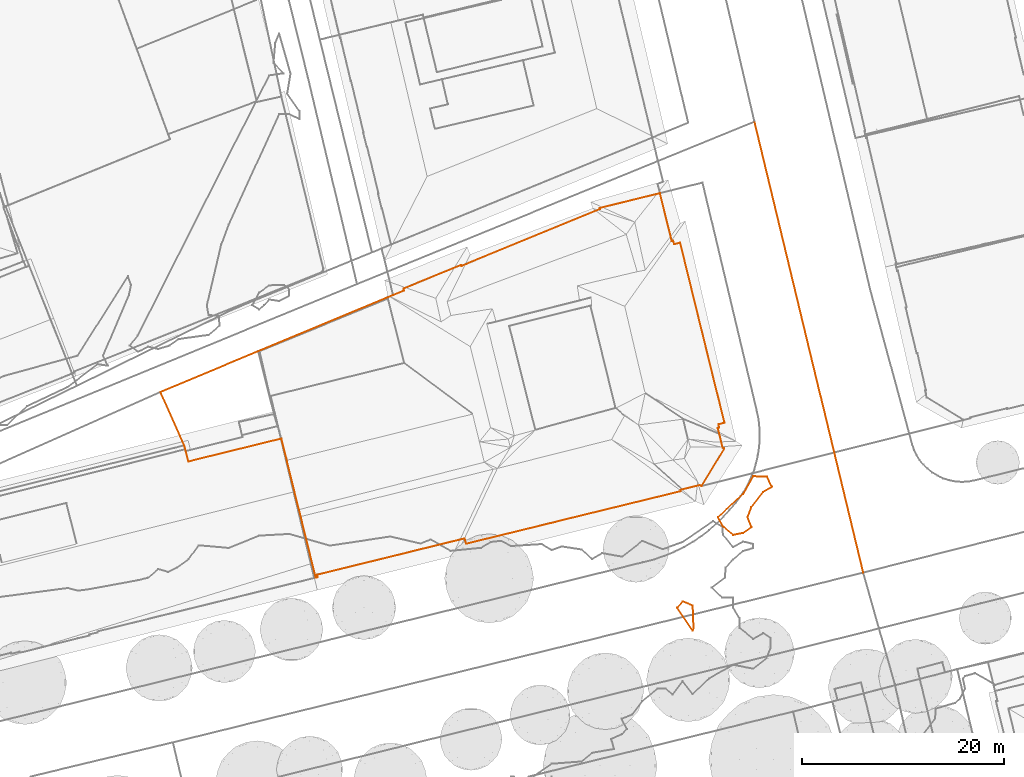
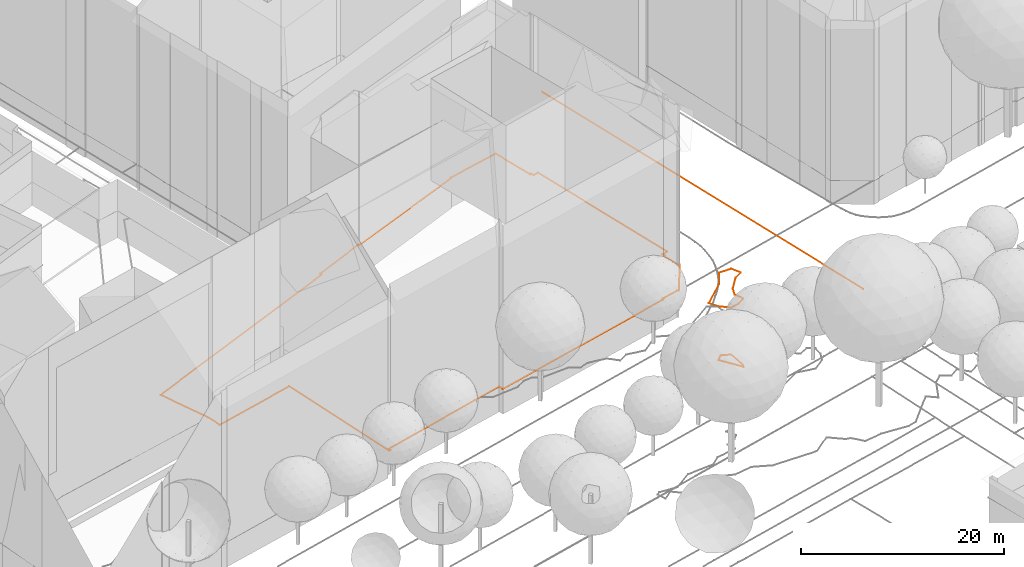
# Not in any storey, part 165 of 477: 3 geographic elements, 1 civil element.
"""IFC4 model written with IfcOpenShell, lengths in metres."""

from ifc_helpers import new_model, entity, si_unit, frame, origin_with_axes, place, context, subcontext, project, spatial, element, save


model = new_model("IFC4")

# Units and contexts
model_context = context("Model", 3, precision=1e-05, world=origin_with_axes())
body_context = subcontext(model_context, "Body", "Model", "MODEL_VIEW")
ifc_project = project(units=[si_unit("AREAUNIT", "SQUARE_METRE"), si_unit("LENGTHUNIT", "METRE")], contexts=[model_context])

# Sites
site_1_placement = place(None, origin_with_axes())
site_1 = spatial("IfcSite", under=ifc_project, at=site_1_placement, Name="Topoexport Site")
site_2_placement = place(site_1_placement, origin_with_axes())
site_2 = spatial("IfcSite", under=site_1, at=site_2_placement, Name="TPX_ROADS")

# Civil element
civil_element_placement = place(site_2_placement, frame((277.8057320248, 418.383730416, 541.403), z_axis=(0.0, 0.0, 1.0), x_axis=(1.0, 0.0, 0.0)))
element("IfcCivilElement", 1, at=civil_element_placement, inside=site_2, Name="Road 7", ObjectType="ROAD", context=body_context, shape_type="GeometricCurveSet", body=[
    entity("IfcGeometricCurveSet", [entity("IfcIndexedPolyCurve", entity("IfcCartesianPointList3D", [[0.0, 0.0, 0.0], [10.7860000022, -44.7249986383, -0.402]]))]),
])

# Site
site_3_placement = place(site_1_placement, origin_with_axes())
site_3 = spatial("IfcSite", under=site_1, at=site_3_placement, Name="TPX_CADASTRES")

# Geographic element
geographic_element_1_placement = place(site_3_placement, frame((218.8967320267, 391.5817160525, 541.7687063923), z_axis=(0.0, 0.0, 1.0), x_axis=(1.0, 0.0, 0.0)))
element("IfcGeographicElement", 2, at=geographic_element_1_placement, inside=site_3, Name="Cadastre 13", PredefinedType="NOTDEFINED", context=body_context, shape_type="GeometricCurveSet", body=[
    entity("IfcGeometricCurveSet", [entity("IfcIndexedPolyCurve", entity("IfcCartesianPointList3D", [[0.0, 0.0, 0.0], [23.0789999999, 9.611, -0.0831856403], [24.1400000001, 10.054, -0.0684037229], [24.1009999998, 10.2519999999, -0.0629146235], [29.7990000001, 12.5870000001, 0.0131057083], [29.8420000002, 12.496, 0.010776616], [43.5839999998, 18.145, -0.1656864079], [43.5619999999, 18.236, -0.1663421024], [49.5350000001, 19.709, -0.2483118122], [50.71, 14.942, -0.2601009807], [50.8530000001, 14.9879999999, -0.2608580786], [50.9350000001, 14.6499999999, -0.2651700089], [51.5389999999, 14.7929999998, -0.2720114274], [55.9350000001, -3.0590000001, -0.4742520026], [55.3390000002, -3.203, -0.4811087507], [55.4169999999, -3.5420000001, -0.4814536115], [55.27, -3.571, -0.4837766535], [55.7519999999, -5.5120000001, -0.4954217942], [55.912, -5.608, -0.4988973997], [53.648, -9.338, -0.577757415], [53.477, -9.243, -0.5734324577], [51.5559999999, -9.7120000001, -0.5902300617], [51.5810000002, -9.848, -0.5918056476], [30.304, -15.0530000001, -0.7688679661], [30.179, -14.5260000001, -0.7427499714], [15.5249999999, -18.1270000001, -0.9429026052], [15.5819999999, -18.3760000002, -0.9464270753], [15.4029999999, -18.4200000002, -0.9519457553], [12.0, -4.6200000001, -0.3570119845], [2.7710000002, -6.9000000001, -0.39278271], [2.3709999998, -5.3, -0.322644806], [0.0, 0.0, 0.0]]))]),
])

# Site
site_4_placement = place(site_1_placement, origin_with_axes())
site_4 = spatial("IfcSite", under=site_1, at=site_4_placement, Name="TPX_CONTOUR_LINES")

# Geographic elements
geographic_element_2_placement = place(site_4_placement, frame((274.1810345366, 379.1707160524, 541.0), z_axis=(0.0, 0.0, 1.0), x_axis=(1.0, 0.0, 0.0)))
element("IfcGeographicElement", 3, at=geographic_element_2_placement, inside=site_4, Name="Contour Line 541.0 m", PredefinedType="NOTDEFINED", context=body_context, shape_type="GeometricCurveSet", body=[
    entity("IfcGeometricCurveSet", [entity("IfcIndexedPolyCurve", entity("IfcCartesianPointList3D", [[2.4966974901, -1.5665467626, 0.0], [3.3191517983, -1.0, 0.0], [2.9424806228, 0.0, 0.0], [3.3118925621, 1.0, 0.0], [4.4966974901, 2.5005727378, 0.0], [5.3449465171, 3.0, 0.0], [4.870434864, 4.0, 0.0], [3.4966974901, 4.0478983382, 0.0], [2.4966974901, 2.3007856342, 0.0], [0.0, 0.0, 0.0], [0.4966974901, -0.9295426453, 0.0], [1.4966974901, -1.7692307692, 0.0], [2.4966974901, -1.5665467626, 0.0]]))]),
])
geographic_element_3_placement = place(site_4_placement, frame((270.1221764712, 370.1707160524, 541.0), z_axis=(0.0, 0.0, 1.0), x_axis=(1.0, 0.0, 0.0)))
element("IfcGeographicElement", 4, at=geographic_element_3_placement, inside=site_4, Name="Contour Line 541.0 m", PredefinedType="NOTDEFINED", context=body_context, shape_type="GeometricCurveSet", body=[
    entity("IfcGeometricCurveSet", [entity("IfcIndexedPolyCurve", entity("IfcCartesianPointList3D", [[1.641867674, -2.0, 0.0], [1.5555555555, -2.2493702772, 0.0], [0.0, 0.0, 0.0], [0.5555555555, 0.6346153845, 0.0], [1.5555555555, 0.2228915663, 0.0], [1.641867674, -2.0, 0.0]]))]),
])

save(model, "model.ifc")
